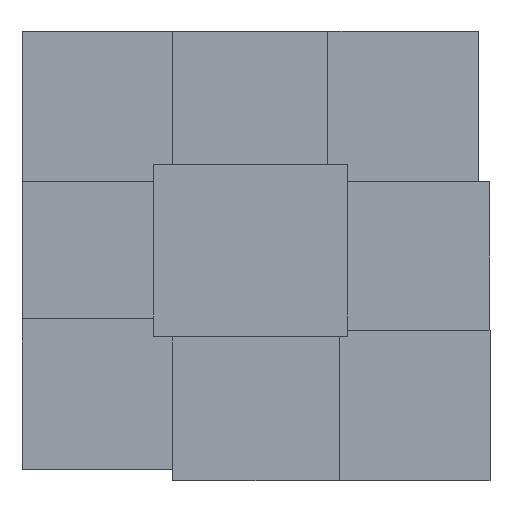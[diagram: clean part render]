
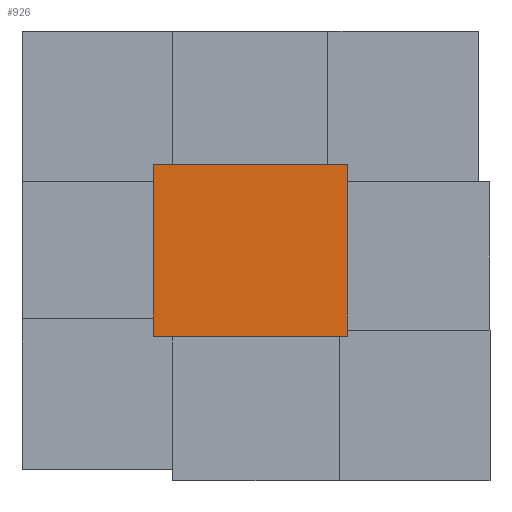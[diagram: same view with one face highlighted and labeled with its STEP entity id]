
A CAD part, left-side view. The second image highlights one B-rep face of the part: STEP entity #926.
In plain terms, the highlighted planar face has unit normal (-1, 0, 0).
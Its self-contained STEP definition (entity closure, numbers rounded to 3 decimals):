
#808=CARTESIAN_POINT('Line Origine',(0.,0.,57.)) ;
#812=CARTESIAN_POINT('Vertex',(0.,0.,0.)) ;
#814=CARTESIAN_POINT('Vertex',(0.,0.,114.)) ;
#883=CARTESIAN_POINT('Vertex',(0.,129.,0.)) ;
#886=CARTESIAN_POINT('Line Origine',(0.,129.,57.)) ;
#890=CARTESIAN_POINT('Vertex',(0.,129.,114.)) ;
#905=CARTESIAN_POINT('Axis2P3D Location',(0.,129.,0.)) ;
#910=CARTESIAN_POINT('Line Origine',(0.,64.5,0.)) ;
#915=CARTESIAN_POINT('Line Origine',(0.,64.5,114.)) ;
#809=DIRECTION('Vector Direction',(0.,0.,1.)) ;
#887=DIRECTION('Vector Direction',(0.,0.,1.)) ;
#906=DIRECTION('Axis2P3D Direction',(-1.,0.,0.)) ;
#907=DIRECTION('Axis2P3D XDirection',(0.,-1.,0.)) ;
#911=DIRECTION('Vector Direction',(0.,-1.,0.)) ;
#916=DIRECTION('Vector Direction',(0.,-1.,0.)) ;
#908=AXIS2_PLACEMENT_3D('Plane Axis2P3D',#905,#906,#907) ;
#921=ORIENTED_EDGE('',*,*,#892,.F.) ;
#922=ORIENTED_EDGE('',*,*,#914,.T.) ;
#923=ORIENTED_EDGE('',*,*,#816,.T.) ;
#924=ORIENTED_EDGE('',*,*,#919,.F.) ;
#810=VECTOR('Line Direction',#809,1.) ;
#888=VECTOR('Line Direction',#887,1.) ;
#912=VECTOR('Line Direction',#911,1.) ;
#917=VECTOR('Line Direction',#916,1.) ;
#926=ADVANCED_FACE('Body.2-molde-superior',(#925),#909,.T.) ;
#816=EDGE_CURVE('',#813,#815,#811,.T.) ;
#892=EDGE_CURVE('',#884,#891,#889,.T.) ;
#914=EDGE_CURVE('',#884,#813,#913,.T.) ;
#919=EDGE_CURVE('',#891,#815,#918,.T.) ;
#920=EDGE_LOOP('',(#921,#922,#923,#924)) ;
#925=FACE_OUTER_BOUND('',#920,.T.) ;
#811=LINE('Line',#808,#810) ;
#889=LINE('Line',#886,#888) ;
#913=LINE('Line',#910,#912) ;
#918=LINE('Line',#915,#917) ;
#909=PLANE('',#908) ;
#813=VERTEX_POINT('',#812) ;
#815=VERTEX_POINT('',#814) ;
#884=VERTEX_POINT('',#883) ;
#891=VERTEX_POINT('',#890) ;
